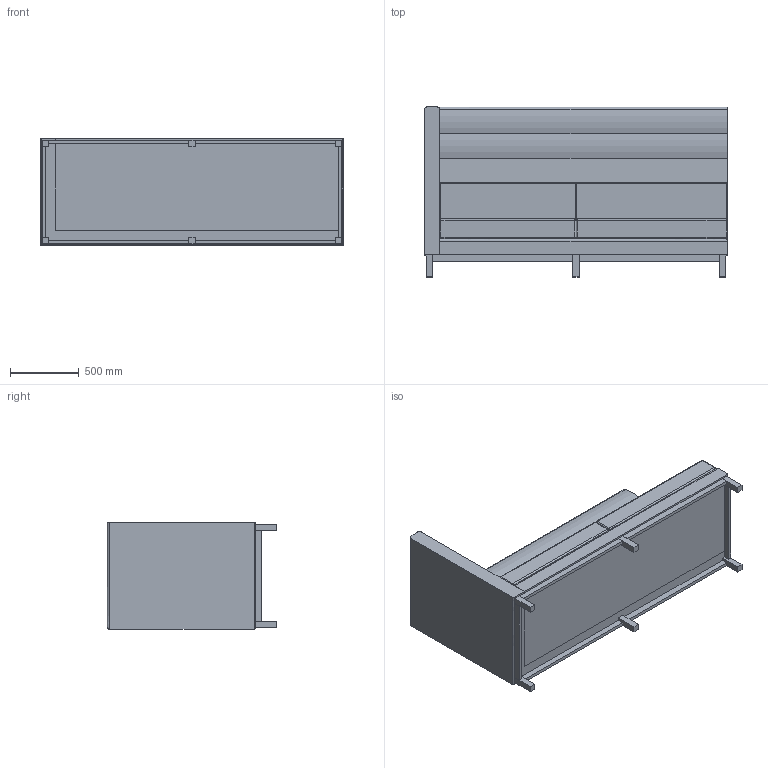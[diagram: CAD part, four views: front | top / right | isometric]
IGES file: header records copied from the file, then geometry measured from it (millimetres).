
Start section: SolidWorks IGES file using analytic representation for surfaces
Global section: file name: P:\3D CAD BLOCKS\ARTHUR CITYSCAPE\HB Bumped Large RH\IGS\ART-HB-BUMP-LRG-ART-CITY-RH.IGS; native system: SolidWorks 2012; preprocessor: SolidWorks 2012; author: tom; date: 160523.091319; units: millimetre
Bounding box: 2210 x 1240 x 780 mm (x, y, z)
Surface area: 16596764 mm2 (no closed solid volume)
Topology: 0 solids, 0 shells, 203 faces, 1018 edges, 1011 vertices
Faces by surface type: bspline 110, revolution 93
